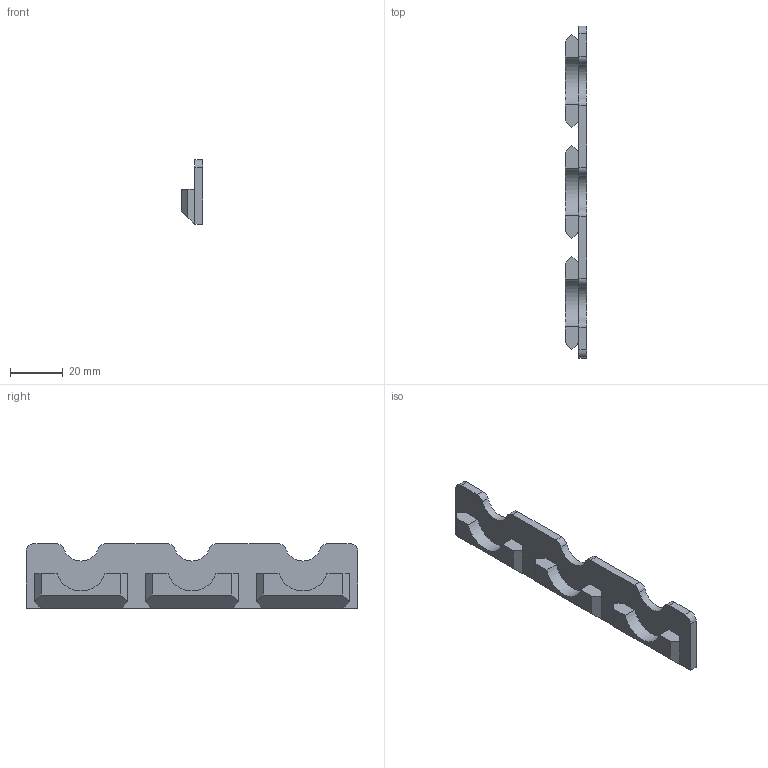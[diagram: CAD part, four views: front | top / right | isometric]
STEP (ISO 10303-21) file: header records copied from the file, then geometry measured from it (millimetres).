
FILE_DESCRIPTION(/* description */ ('','CAx-IF Rec.Pracs.---Representation and Presentation of Product Manufacturing Information (PMI)---4.0---2014-10-13'),/* implementation_level */ '2;1');
FILE_NAME(/* name */ 'Goews 3x Hanging Plate Blank.step',/* time_stamp */ '2024-11-28T09:32:33-05:00',/* author */ (''),/* organization */ (''),/* preprocessor_version */ 'ST-DEVELOPER v20',/* originating_system */ 'Autodesk Translation Framework v13.20.0.188',/* authorisation */ '');
FILE_SCHEMA (('AP242_MANAGED_MODEL_BASED_3D_ENGINEERING_MIM_LF { 1 0 10303 442 1 1 4 }'));
Length unit declared in the file: millimetre
Products named in the file (1): Goews 3x Hanging Plate Blank
Bounding box: 8.15 x 125.6 x 24.39 mm (x, y, z)
Volume: 12562.3 mm3; surface area: 7940.2 mm2
Topology: 1 solids, 1 shells, 56 faces, 147 edges, 96 vertices
Faces by surface type: plane 42, cylinder 14
Entity records: 1744 total; most frequent: CARTESIAN_POINT 300, ORIENTED_EDGE 294, DIRECTION 289, EDGE_CURVE 147, LINE 119, VECTOR 119, VERTEX_POINT 96, AXIS2_PLACEMENT_3D 85
